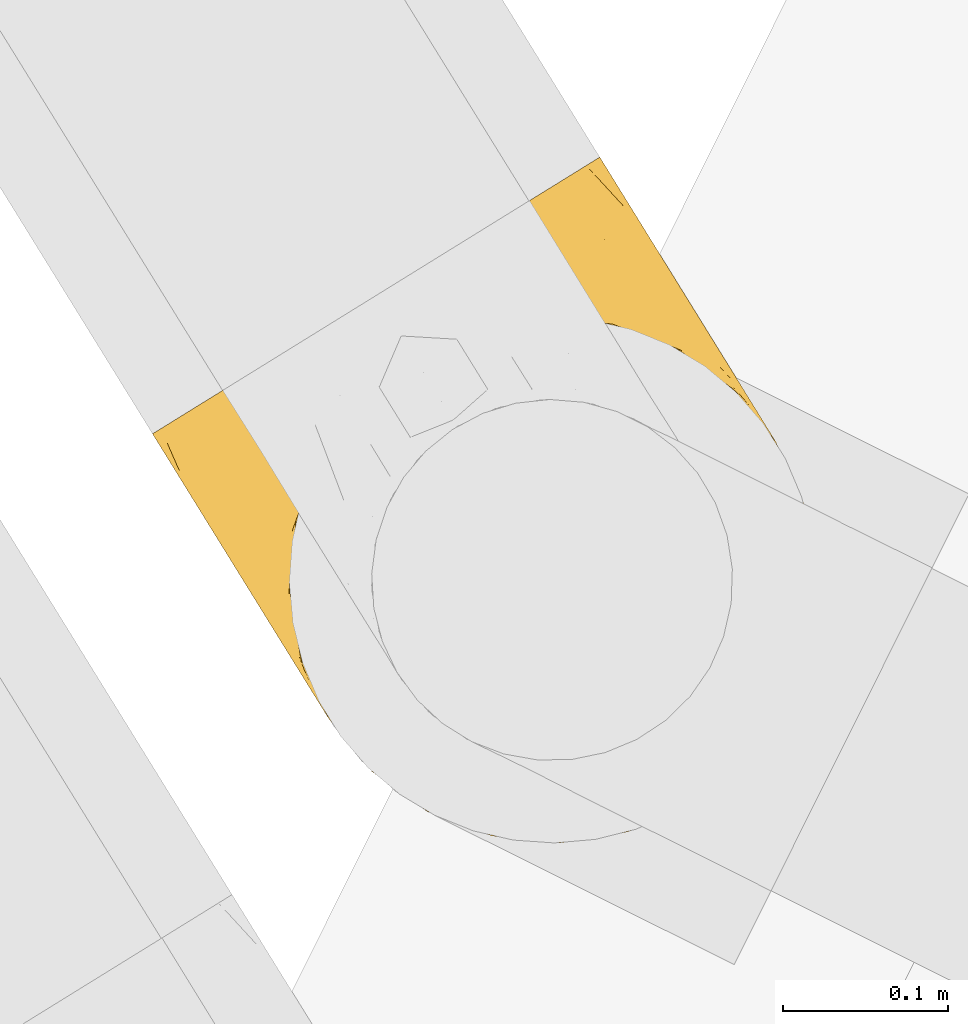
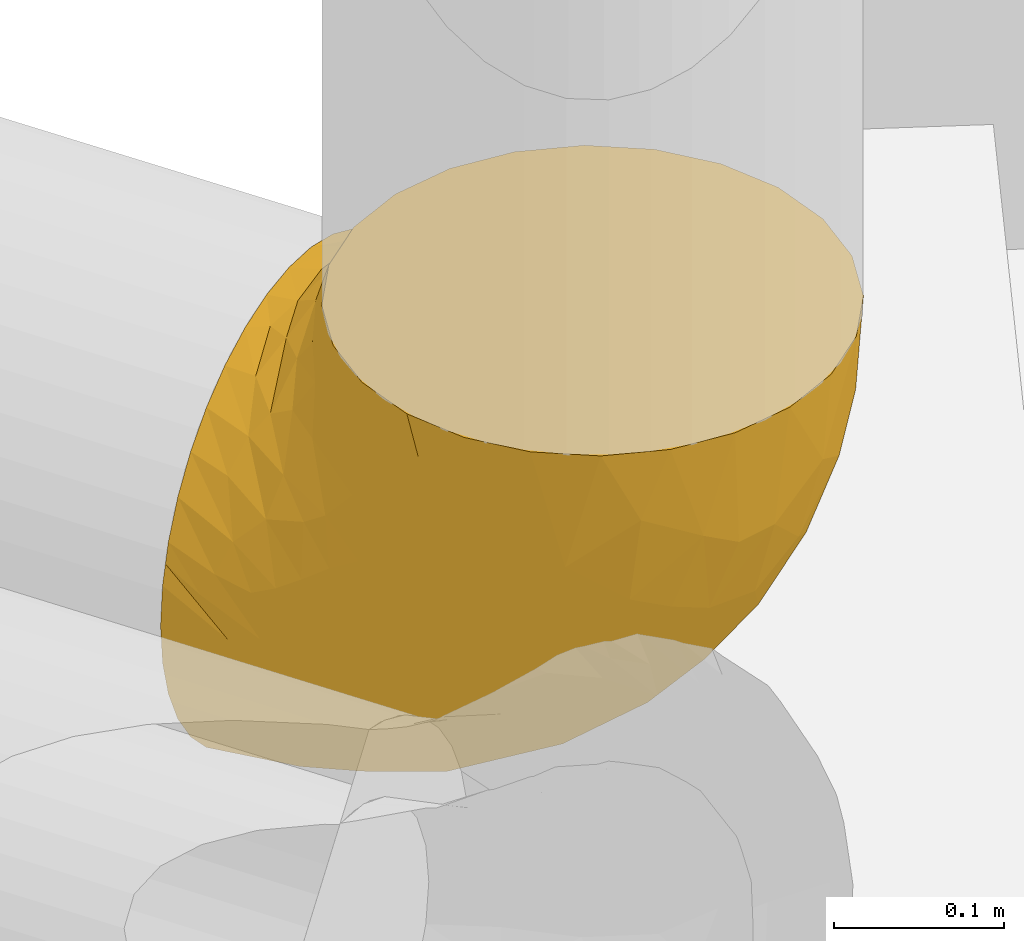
# One storey, part 41 of 91: 1 covering.
"""IFC2X3 building model written with IfcOpenShell, lengths in metres."""

import ifcopenshell
import ifcopenshell.guid

model = None  # the IFC model being written
_history = None  # IfcOwnerHistory: only IFC2X3 demands one
_inside = {}  # id of a spatial element -> (the spatial element, [elements in it])
_under = {}  # id of a project, library or spatial element -> (it, [spatial elements below it])
_declared = {}  # id of a project -> (the project, [libraries it declares])
_typed = {}  # id of a type object -> (the type object, [elements of that type])
_made_of = {}  # id of a material, layer set ... -> (it, [elements and type objects made of it])


def new_model(schema):
    """Start an empty IFC model of exactly this schema.

    Asked for "IFC4X3", IfcOpenShell would pick the latest addendum, in which some entities
    have other attributes; the version numbers below select the first issue.
    IFC2X3 requires an IfcOwnerHistory on every rooted entity: one is made here for all.
    """
    global model, _history
    if schema == "IFC4X3":
        model = ifcopenshell.file(schema_version=(4, 3, 0, 0))
    else:
        model = ifcopenshell.file(schema=schema)
    _inside.clear()
    _under.clear()
    _declared.clear()
    _typed.clear()
    _made_of.clear()
    _history = None
    if model.schema == "IFC2X3":
        org = make("IfcOrganization", Name="unknown")
        user = make(
            "IfcPersonAndOrganization",
            ThePerson=make("IfcPerson", FamilyName="unknown"),
            TheOrganization=org,
        )
        app = make(
            "IfcApplication",
            ApplicationDeveloper=org,
            Version="unknown",
            ApplicationFullName="unknown",
            ApplicationIdentifier="unknown",
        )
        _history = make(
            "IfcOwnerHistory",
            OwningUser=user,
            OwningApplication=app,
            ChangeAction="ADDED",
            CreationDate=0,
        )
    return model


def make(cls, **values):
    """One entity of the class cls with the attributes given. An attribute that is None is left unset."""
    return model.create_entity(
        cls, **{name: value for name, value in values.items() if value is not None}
    )


def entity(cls, *values):
    """Any entity or typed value of the class cls, its attributes in the order of the schema. None: left unset."""
    e = model.create_entity(cls)
    for i, value in enumerate(values):
        if value is not None:
            e[i] = value
    return e


def rooted(cls, **values):
    """An entity with a GlobalId (a new one), such as an element, a storey or a relation."""
    return make(cls, GlobalId=ifcopenshell.guid.new(), OwnerHistory=_history, **values)


def si_unit(unit_type, name, prefix=None):
    """IfcSIUnit, for example si_unit("LENGTHUNIT", "METRE", prefix="MILLI")."""
    return make("IfcSIUnit", UnitType=unit_type, Prefix=prefix, Name=name)


def converted_unit(unit_type, name, factor, base, dimensions=None, offset=None):
    """IfcConversionBasedUnit, such as the inch: factor (a typed value) times the base unit."""
    return make(
        "IfcConversionBasedUnit"
        if offset is None
        else "IfcConversionBasedUnitWithOffset",
        ConversionOffset=offset,
        Dimensions=None
        if dimensions is None
        else entity("IfcDimensionalExponents", *dimensions),
        UnitType=unit_type,
        Name=name,
        ConversionFactor=make(
            "IfcMeasureWithUnit", ValueComponent=factor, UnitComponent=base
        ),
    )


def derived_unit(unit_type, elements):
    """IfcDerivedUnit: a product of units, each with its exponent."""
    return make(
        "IfcDerivedUnit",
        Elements=[
            make("IfcDerivedUnitElement", Unit=unit, Exponent=power)
            for unit, power in elements
        ],
        UnitType=unit_type,
    )


def assignment(units):
    """IfcUnitAssignment: the units of a project."""
    return None if units is None else make("IfcUnitAssignment", Units=units)


def point(xyz):
    """IfcCartesianPoint."""
    return None if xyz is None else make("IfcCartesianPoint", Coordinates=xyz)


def direction(xyz):
    """IfcDirection."""
    return None if xyz is None else make("IfcDirection", DirectionRatios=xyz)


def frame(location, z_axis=None, x_axis=None):
    """IfcAxis2Placement3D, a coordinate frame: its origin and axes. An axis left out is left unset."""
    return make(
        "IfcAxis2Placement3D",
        Location=point(location),
        Axis=direction(z_axis),
        RefDirection=direction(x_axis),
    )


def origin():
    """The frame at (0, 0, 0) with its axes left unset."""
    return frame((0.0, 0.0, 0.0))


def place(relative_to, where):
    """IfcLocalPlacement: puts the frame where relative to a parent placement (None: the world)."""
    return make(
        "IfcLocalPlacement", PlacementRelTo=relative_to, RelativePlacement=where
    )


def context(
    kind, dimensions, precision=None, world=None, true_north=None, identifier=None
):
    """IfcGeometricRepresentationContext, for example the 3D "Model" context."""
    return make(
        "IfcGeometricRepresentationContext",
        ContextIdentifier=identifier,
        ContextType=kind,
        CoordinateSpaceDimension=dimensions,
        Precision=precision,
        WorldCoordinateSystem=world,
        TrueNorth=true_north,
    )


def subcontext(parent, identifier, kind, view, scale=None):
    """IfcGeometricRepresentationSubContext, for example "Body" below "Model"."""
    return make(
        "IfcGeometricRepresentationSubContext",
        ContextIdentifier=identifier,
        ContextType=kind,
        ParentContext=parent,
        TargetScale=scale,
        TargetView=view,
    )


def project(units=None, contexts=None):
    """IfcProject with its units and contexts."""
    return rooted(
        "IfcProject",
        Name="project",
        RepresentationContexts=contexts,
        UnitsInContext=assignment(units),
    )


def spatial(cls, under=None, at=None, **own):
    """A site, building, storey or space (cls), placed at a placement, below another one or the project."""
    s = rooted(cls, ObjectPlacement=at, **own)
    if under is not None:
        _under.setdefault(under.id(), (under, []))[1].append(s)
    return s


def faces_of(points, faces, orient=None, outer=None):
    """IfcFace entities. A face is a list of loops; a loop is a list of indices into points, from 0.

    orient and outer hold one flag for each loop. By default every Orientation is true, the
    first loop of a face is its IfcFaceOuterBound and the others are IfcFaceBound.
    """
    made = []
    for i, loops in enumerate(faces):
        bounds = []
        for j, loop in enumerate(loops):
            is_outer = j == 0 if outer is None else outer[i][j]
            bounds.append(
                make(
                    "IfcFaceOuterBound" if is_outer else "IfcFaceBound",
                    Bound=make("IfcPolyLoop", Polygon=[points[k] for k in loop]),
                    Orientation=True if orient is None else orient[i][j],
                )
            )
        made.append(make("IfcFace", Bounds=bounds))
    return made


def faceted_brep(points, faces, orient=None, outer=None, voids=None):
    """IfcFacetedBrep: a solid bounded by flat faces; with voids (closed shells), ...WithVoids."""
    shared = [point(p) for p in points]
    hull = make("IfcClosedShell", CfsFaces=faces_of(shared, faces, orient, outer))
    if voids is None:
        return make("IfcFacetedBrep", Outer=hull)
    return make(
        "IfcFacetedBrepWithVoids",
        Outer=hull,
        Voids=[
            make(cls, CfsFaces=faces_of(shared, fs, o, b)) for cls, fs, o, b in voids
        ],
    )


def shape(context_of_items, identifier, shape_type, items):
    """IfcShapeRepresentation: the items that make up one representation, for example the "Body"."""
    return make(
        "IfcShapeRepresentation",
        ContextOfItems=context_of_items,
        RepresentationIdentifier=identifier,
        RepresentationType=shape_type,
        Items=items,
    )


def made_of(thing, what):
    """Note that an element or type object is made of a material, layer set ...; save() writes the relation."""
    if what is not None:
        _made_of.setdefault(what.id(), (what, []))[1].append(thing)
    return thing


def element(
    cls,
    number,
    at=None,
    inside=None,
    cuts=None,
    type_object=None,
    material=None,
    context=None,
    identifier="Body",
    shape_type=None,
    held_by="IfcProductDefinitionShape",
    body=None,
    shapes=None,
    **own,
):
    """One element of the class cls, such as IfcWall. Its Tag is "e" and its number.

    at: its placement. inside: the storey or other place that contains it. cuts: it is an
    opening in that element (IfcRelVoidsElement). A single representation is given by context,
    identifier, shape_type and body (its items); several are given by shapes. held_by: the class
    of the entity that holds the representations. save() writes the other relations.
    """
    e = rooted(cls, Tag="e%d" % number, ObjectPlacement=at, **own)
    if body is not None:
        shapes = [shape(context, identifier, shape_type, body)]
    if shapes is not None:
        e.Representation = make(held_by, Representations=shapes)
    if inside is not None:
        _inside.setdefault(inside.id(), (inside, []))[1].append(e)
    if cuts is not None:
        rooted(
            "IfcRelVoidsElement", RelatingBuildingElement=cuts, RelatedOpeningElement=e
        )
    if type_object is not None:
        _typed.setdefault(type_object.id(), (type_object, []))[1].append(e)
    return made_of(e, material)


def aggregate(whole, parts):
    """IfcRelAggregates: a whole, such as a stair, and the parts it consists of."""
    return rooted("IfcRelAggregates", RelatingObject=whole, RelatedObjects=parts)


def save(model, path):
    """Write the relations noted so far, then the file.

    IfcRelAggregates (storeys below a building ...), IfcRelContainedInSpatialStructure (elements
    in a storey), IfcRelDefinesByType, IfcRelAssociatesMaterial and IfcRelDeclares: one each for
    every whole, place, type object, material and project.
    """
    for whole, parts in _under.values():
        aggregate(whole, parts)
    for where, things in _inside.values():
        rooted(
            "IfcRelContainedInSpatialStructure",
            RelatedElements=things,
            RelatingStructure=where,
        )
    for kind, things in _typed.values():
        rooted("IfcRelDefinesByType", RelatedObjects=things, RelatingType=kind)
    for what, things in _made_of.values():
        rooted("IfcRelAssociatesMaterial", RelatedObjects=things, RelatingMaterial=what)
    for by, libraries in _declared.values():
        rooted("IfcRelDeclares", RelatingContext=by, RelatedDefinitions=libraries)
    model.write(path)


model = new_model("IFC2X3")

# Units and contexts
model_context = context("Model", 3, precision=1e-05, world=origin(), true_north=direction((0.894925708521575, 0.446215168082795)))
context_of_model = context(None, 3, precision=1e-05, world=origin(), true_north=direction((0.894925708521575, 0.446215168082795)))
body_context = subcontext(model_context, "Body", "Model", "MODEL_VIEW")
ifc_project = project(units=[si_unit("LENGTHUNIT", "METRE"), si_unit("AREAUNIT", "SQUARE_METRE"), si_unit("VOLUMEUNIT", "CUBIC_METRE"), converted_unit("PLANEANGLEUNIT", "DEGREE", entity("IfcRatioMeasure", 0.0174532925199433), si_unit("PLANEANGLEUNIT", "RADIAN"), dimensions=[0, 0, 0, 0, 0, 0, 0]), si_unit("MASSUNIT", "GRAM", prefix="KILO"), si_unit("TIMEUNIT", "SECOND"), si_unit("FREQUENCYUNIT", "HERTZ"), si_unit("THERMODYNAMICTEMPERATUREUNIT", "DEGREE_CELSIUS"), derived_unit("THERMALTRANSMITTANCEUNIT", [(si_unit("MASSUNIT", "GRAM", prefix="KILO"), 1), (si_unit("THERMODYNAMICTEMPERATUREUNIT", "KELVIN"), -1), (si_unit("TIMEUNIT", "SECOND"), -3)]), derived_unit("VOLUMETRICFLOWRATEUNIT", [(si_unit("LENGTHUNIT", "METRE"), 3), (si_unit("TIMEUNIT", "SECOND"), -1)]), si_unit("ELECTRICCURRENTUNIT", "AMPERE"), si_unit("ELECTRICVOLTAGEUNIT", "VOLT"), si_unit("POWERUNIT", "WATT"), si_unit("FORCEUNIT", "NEWTON", prefix="KILO"), si_unit("ILLUMINANCEUNIT", "LUX"), si_unit("LUMINOUSFLUXUNIT", "LUMEN"), si_unit("LUMINOUSINTENSITYUNIT", "CANDELA"), si_unit("PRESSUREUNIT", "PASCAL")], contexts=[model_context, context_of_model])

# Site, building, storey
site_placement = place(None, frame((218.228324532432, 584.720189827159, 0.0), z_axis=(0.0, 0.0, 1.0), x_axis=(0.446215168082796, 0.894925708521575, 0.0)))
site = spatial("IfcSite", under=ifc_project, at=site_placement, Name="Default", CompositionType="ELEMENT")
building_placement = place(site_placement, origin())
building = spatial("IfcBuilding", under=site, at=building_placement, CompositionType="ELEMENT")
storey_placement = place(building_placement, origin())
storey = spatial("IfcBuildingStorey", under=building, at=storey_placement, Name="0 - Piano Terra", CompositionType="ELEMENT", Elevation=0.0)

# Covering
covering_placement = place(storey_placement, frame((-30.3032905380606, 5.97785126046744, 0.338854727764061)))
element("IfcCovering", 1, at=covering_placement, inside=storey, Name="Isolamento tubazione:Default", ObjectType="Isolamento tubazione:Default", PredefinedType="INSULATION", context=body_context, shape_type="Brep", body=[
    faceted_brep([(0.395398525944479, 0.254758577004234, 0.106575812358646), (0.385403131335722, 0.260946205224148, 0.0813666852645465), (0.37184003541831, 0.269342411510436, 0.0585864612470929), (0.35512185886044, 0.279691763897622, 0.0389242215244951), (0.335749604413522, 0.291684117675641, 0.0229706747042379), (0.314314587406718, 0.304953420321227, 0.0112156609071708), (0.291473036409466, 0.319093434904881, 0.00401834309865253), (0.267920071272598, 0.333673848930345, 0.00159527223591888), (0.244365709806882, 0.348255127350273, 0.00401863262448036), (0.221521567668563, 0.362396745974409, 0.0112173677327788), (0.20008712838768, 0.375665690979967, 0.0229729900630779), (0.180717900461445, 0.38765617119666, 0.0389245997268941), (0.163999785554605, 0.3980054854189, 0.0585869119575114), (0.150435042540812, 0.406402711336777, 0.0813706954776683), (0.140440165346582, 0.412590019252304, 0.106580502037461), (0.134320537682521, 0.416378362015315, 0.133444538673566), (0.132260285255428, 0.417653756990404, 0.16114527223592), (0.133065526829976, 0.417155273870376, 0.171971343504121), (0.13432078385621, 0.416378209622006, 0.188847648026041), (0.137381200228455, 0.414483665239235, 0.202281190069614), (0.140441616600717, 0.412589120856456, 0.215714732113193), (0.150437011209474, 0.406401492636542, 0.240923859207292), (0.164000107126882, 0.398005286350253, 0.263704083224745), (0.180718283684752, 0.387655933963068, 0.283366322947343), (0.200090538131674, 0.375663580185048, 0.2993198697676), (0.221525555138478, 0.362394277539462, 0.311074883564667), (0.244367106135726, 0.348254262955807, 0.318272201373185), (0.267920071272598, 0.333673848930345, 0.320695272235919), (0.291474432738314, 0.319092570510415, 0.318271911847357), (0.314318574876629, 0.30495095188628, 0.311073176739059), (0.335753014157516, 0.291682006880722, 0.29931755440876), (0.355122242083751, 0.27969152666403, 0.283365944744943), (0.371840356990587, 0.269342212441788, 0.263703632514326), (0.38540510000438, 0.260944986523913, 0.240919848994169), (0.395399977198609, 0.254757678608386, 0.215710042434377), (0.401519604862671, 0.250969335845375, 0.188846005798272), (0.402774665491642, 0.250192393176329, 0.17197132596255), (0.403579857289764, 0.249693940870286, 0.161145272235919), (0.401519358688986, 0.250969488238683, 0.133442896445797), (0.12452685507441, 0.316378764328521, 0.364145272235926), (0.105051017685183, 0.30900371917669, 0.364145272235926), (0.0855751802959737, 0.301628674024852, 0.364145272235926), (0.0686717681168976, 0.289464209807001, 0.364145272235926), (0.0517683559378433, 0.277299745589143, 0.364145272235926), (0.03940244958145, 0.262169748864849, 0.364145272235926), (0.0324063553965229, 0.253609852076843, 0.364145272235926), (0.0254102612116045, 0.245049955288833, 0.364145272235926), (0.0082971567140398, 0.207077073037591, 0.364145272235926), (0.0015952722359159, 0.165968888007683, 0.364145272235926), (0.00576133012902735, 0.124526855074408, 0.364145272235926), (0.0205114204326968, 0.0855751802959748, 0.364145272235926), (0.0448403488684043, 0.0517683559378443, 0.364145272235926), (0.0770901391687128, 0.0254102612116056, 0.364145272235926), (0.115063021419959, 0.00829715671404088, 0.364145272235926), (0.156171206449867, 0.0015952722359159, 0.364145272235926), (0.197613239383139, 0.00576133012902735, 0.364145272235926), (0.236564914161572, 0.0205114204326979, 0.364145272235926), (0.270371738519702, 0.0448403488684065, 0.364145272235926), (0.296729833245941, 0.0770901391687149, 0.364145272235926), (0.301272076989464, 0.0871690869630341, 0.364145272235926), (0.305814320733, 0.0972480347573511, 0.364145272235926), (0.313842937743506, 0.115063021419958, 0.364145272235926), (0.317193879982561, 0.135617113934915, 0.364145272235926), (0.320544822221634, 0.156171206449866, 0.364145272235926), (0.318461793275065, 0.176892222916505, 0.364145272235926), (0.316378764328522, 0.197613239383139, 0.364145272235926), (0.301628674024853, 0.236564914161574, 0.364145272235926), (0.277299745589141, 0.270371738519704, 0.364145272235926), (0.245049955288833, 0.296729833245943, 0.364145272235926), (0.207077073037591, 0.313842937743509, 0.364145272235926), (0.165968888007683, 0.320544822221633, 0.364145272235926), (0.145247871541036, 0.31846179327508, 0.364145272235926), (0.119667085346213, 0.0181429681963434, 0.275645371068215), (0.0799892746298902, 0.0300934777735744, 0.301189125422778), (0.0885985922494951, 0.0440008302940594, 0.240145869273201), (0.282469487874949, 0.0810856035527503, 0.192702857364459), (0.312629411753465, 0.109460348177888, 0.197037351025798), (0.274916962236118, 0.0578786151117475, 0.257674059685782), (0.320041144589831, 0.114746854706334, 0.237576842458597), (0.313676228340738, 0.104465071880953, 0.256821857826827), (0.307311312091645, 0.0941832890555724, 0.276066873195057), (0.158392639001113, 0.0280431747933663, 0.223051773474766), (0.128484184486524, 0.0370541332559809, 0.215164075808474), (0.143626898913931, 0.0644998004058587, 0.159526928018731), (0.263513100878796, 0.12869687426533, 0.0926591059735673), (0.252721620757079, 0.0849492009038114, 0.144663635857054), (0.218796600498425, 0.082258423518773, 0.130966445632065), (0.144083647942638, 0.00691847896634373, 0.305777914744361), (0.213456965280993, 0.0131251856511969, 0.31421969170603), (0.314415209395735, 0.127255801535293, 0.149883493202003), (0.102656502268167, 0.0667097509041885, 0.182870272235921), (0.121735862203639, 0.0975302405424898, 0.131102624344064), (0.157371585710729, 0.102605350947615, 0.109488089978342), (0.145256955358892, 0.135525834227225, 0.0864158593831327), (0.379803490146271, 0.211285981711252, 0.166234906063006), (0.351537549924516, 0.17231192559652, 0.146967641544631), (0.214060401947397, 0.0253899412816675, 0.25014029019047), (0.249074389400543, 0.0464782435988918, 0.229011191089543), (0.249588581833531, 0.03208852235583, 0.301075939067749), (0.277161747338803, 0.231661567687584, 0.0236515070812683), (0.2214002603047, 0.187186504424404, 0.0385683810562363), (0.245891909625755, 0.241989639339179, 0.0156740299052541), (0.299408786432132, 0.0814176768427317, 0.318973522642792), (0.298055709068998, 0.0792319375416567, 0.341788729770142), (0.297392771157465, 0.0781610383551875, 0.352967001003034), (0.173672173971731, 0.00844345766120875, 0.292024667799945), (0.202652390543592, 0.228241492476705, 0.0234597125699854), (0.172505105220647, 0.179542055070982, 0.050167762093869), (0.303360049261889, 0.0878004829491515, 0.297520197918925), (0.352214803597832, 0.204094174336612, 0.0922467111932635), (0.186776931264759, 0.091611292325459, 0.115617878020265), (0.196209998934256, 0.135683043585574, 0.073154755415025), (0.222589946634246, 0.123344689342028, 0.0846018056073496), (0.313666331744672, 0.177298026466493, 0.0773627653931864), (0.324842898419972, 0.222027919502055, 0.0495812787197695), (0.291811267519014, 0.128393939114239, 0.114293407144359), (0.256727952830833, 0.166165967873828, 0.0561833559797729), (0.234782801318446, 0.280144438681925, 0.00710322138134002), (0.397696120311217, 0.240189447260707, 0.162404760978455), (0.391812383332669, 0.230684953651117, 0.163664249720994), (0.357219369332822, 0.174803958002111, 0.181248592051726), (0.347089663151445, 0.158440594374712, 0.193341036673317), (0.336959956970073, 0.142077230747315, 0.205433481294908), (0.368511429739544, 0.193044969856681, 0.173741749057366), (0.328500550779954, 0.128412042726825, 0.221505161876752), (0.181684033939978, 0.0549779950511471, 0.166460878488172), (0.217488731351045, 0.0500366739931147, 0.185436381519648), (0.189333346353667, 0.0283771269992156, 0.223925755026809), (0.282208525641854, 0.294777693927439, 0.324911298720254), (0.311229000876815, 0.105941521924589, 0.337277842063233), (0.375512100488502, 0.239131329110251, 0.237558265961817), (0.316172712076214, 0.119133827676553, 0.328080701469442), (0.350547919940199, 0.221637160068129, 0.267743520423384), (0.34654922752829, 0.257269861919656, 0.282779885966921), (0.339485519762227, 0.237478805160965, 0.287013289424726), (0.329022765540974, 0.138958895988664, 0.270555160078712), (0.337842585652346, 0.15770757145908, 0.258245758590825), (0.334325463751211, 0.172117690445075, 0.28524547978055), (0.375650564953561, 0.215767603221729, 0.210134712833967), (0.306301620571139, 0.240760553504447, 0.334476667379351), (0.316136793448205, 0.208809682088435, 0.339736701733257), (0.321573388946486, 0.214579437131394, 0.319015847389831), (0.360145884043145, 0.224610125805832, 0.253348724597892), (0.351885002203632, 0.185569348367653, 0.242127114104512), (0.361136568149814, 0.190490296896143, 0.217507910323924), (0.326859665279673, 0.234583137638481, 0.303705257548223), (0.343452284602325, 0.20660766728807, 0.275276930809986), (0.326801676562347, 0.267175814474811, 0.301106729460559), (0.327243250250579, 0.186440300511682, 0.311576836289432), (0.281495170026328, 0.27538069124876, 0.339341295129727), (0.303578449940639, 0.27058212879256, 0.31951244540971), (0.342938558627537, 0.157679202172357, 0.232624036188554), (0.350024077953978, 0.167258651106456, 0.217038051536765), (0.303151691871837, 0.291899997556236, 0.314843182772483), (0.38328333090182, 0.223206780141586, 0.196765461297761), (0.332989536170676, 0.201151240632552, 0.295924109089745), (0.321236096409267, 0.171582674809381, 0.34496298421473), (0.256485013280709, 0.31520184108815, 0.326516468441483), (0.248113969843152, 0.301679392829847, 0.342420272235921), (0.323187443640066, 0.175956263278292, 0.329719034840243), (0.318232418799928, 0.11736118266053, 0.29329998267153), (0.324883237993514, 0.135042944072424, 0.289482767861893), (0.329100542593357, 0.158786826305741, 0.297029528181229), (0.323220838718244, 0.143411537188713, 0.315309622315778), (0.344726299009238, 0.176638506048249, 0.255196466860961), (0.321127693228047, 0.14802413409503, 0.339551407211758), (0.154164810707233, 0.364569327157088, 0.280281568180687), (0.121422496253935, 0.34582059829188, 0.274410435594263), (0.114440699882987, 0.356641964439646, 0.247884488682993), (0.229508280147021, 0.330698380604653, 0.323578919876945), (0.211238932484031, 0.321193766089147, 0.336527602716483), (0.138698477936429, 0.321047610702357, 0.34377903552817), (0.111083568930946, 0.31472856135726, 0.338896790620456), (0.0882094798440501, 0.323166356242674, 0.267508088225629), (0.065700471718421, 0.305010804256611, 0.249727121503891), (0.0779537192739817, 0.307945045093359, 0.288664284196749), (0.0869877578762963, 0.337345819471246, 0.223062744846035), (0.0972482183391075, 0.335444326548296, 0.257122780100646), (0.0757700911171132, 0.326400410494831, 0.193341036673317), (0.0956209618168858, 0.352055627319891, 0.211214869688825), (0.0280892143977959, 0.249377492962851, 0.318973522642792), (0.0267361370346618, 0.24719175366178, 0.341788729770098), (0.0260731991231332, 0.246120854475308, 0.352967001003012), (0.140122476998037, 0.32605006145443, 0.327025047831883), (0.114582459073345, 0.320307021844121, 0.320742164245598), (0.0447694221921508, 0.270892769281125, 0.337277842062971), (0.217191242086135, 0.347755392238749, 0.314621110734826), (0.1854852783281, 0.358264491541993, 0.301284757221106), (0.199728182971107, 0.339348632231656, 0.318085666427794), (0.0735567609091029, 0.298575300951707, 0.316513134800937), (0.0783817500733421, 0.298684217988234, 0.340160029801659), (0.156281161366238, 0.351483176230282, 0.294403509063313), (0.0320404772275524, 0.25576029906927, 0.297520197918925), (0.118489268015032, 0.329009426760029, 0.302061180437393), (0.0543732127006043, 0.281200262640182, 0.328080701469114), (0.126376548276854, 0.408149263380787, 0.162404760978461), (0.120492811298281, 0.398644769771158, 0.163664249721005), (0.108483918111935, 0.379245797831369, 0.166234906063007), (0.143861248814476, 0.377368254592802, 0.259460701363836), (0.0772864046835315, 0.321654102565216, 0.237066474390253), (0.0571809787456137, 0.296371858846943, 0.221505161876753), (0.120478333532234, 0.375731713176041, 0.228265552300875), (0.168523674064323, 0.325942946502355, 0.336132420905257), (0.0858997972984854, 0.342763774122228, 0.181248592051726), (0.0971918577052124, 0.361004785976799, 0.173741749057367), (0.121042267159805, 0.394941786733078, 0.190630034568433), (0.119418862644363, 0.386474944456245, 0.206112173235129), (0.0598773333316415, 0.295509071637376, 0.264351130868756), (0.035991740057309, 0.26214310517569, 0.276066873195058), (0.174208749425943, 0.334630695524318, 0.320790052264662), (0.145243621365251, 0.339098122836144, 0.304186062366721), (0.103937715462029, 0.366031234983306, 0.202773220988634), (0.0521669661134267, 0.283203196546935, 0.288174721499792), (0.0656403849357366, 0.310037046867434, 0.205433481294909), (0.0487215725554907, 0.282706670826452, 0.237576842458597), (0.0423566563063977, 0.272424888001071, 0.256821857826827), (0.047294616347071, 0.273715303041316, 0.197037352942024), (0.110388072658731, 0.131690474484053, 0.109488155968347), (0.122676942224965, 0.181203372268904, 0.0731551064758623), (0.00912054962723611, 0.186460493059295, 0.279870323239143), (0.0159967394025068, 0.148000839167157, 0.250140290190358), (0.00528784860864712, 0.141991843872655, 0.314219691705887), (0.0209401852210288, 0.231142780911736, 0.270957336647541), (0.142604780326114, 0.334840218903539, 0.0495818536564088), (0.114345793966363, 0.351344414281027, 0.092251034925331), (0.083521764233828, 0.323709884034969, 0.13430515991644), (0.0801300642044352, 0.202383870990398, 0.104351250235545), (0.0520680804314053, 0.209163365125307, 0.144663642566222), (0.078365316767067, 0.252871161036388, 0.104304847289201), (0.0874353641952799, 0.153108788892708, 0.115618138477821), (0.0485554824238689, 0.149840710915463, 0.168429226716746), (0.0824093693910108, 0.102396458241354, 0.159526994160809), (0.0341296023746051, 0.0824389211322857, 0.276041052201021), (0.0188374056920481, 0.104293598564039, 0.292024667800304), (0.0707019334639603, 0.0707670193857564, 0.214728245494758), (0.0639345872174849, 0.125613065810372, 0.161374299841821), (0.0431939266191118, 0.099356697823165, 0.223051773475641), (0.0516002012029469, 0.0602796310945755, 0.275645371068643), (0.0387787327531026, 0.221129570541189, 0.175378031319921), (0.11175572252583, 0.369267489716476, 0.116541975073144), (0.0268533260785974, 0.122434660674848, 0.236336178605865), (0.122976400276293, 0.248966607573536, 0.056183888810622), (0.17248723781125, 0.296462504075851, 0.0236528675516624), (0.157543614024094, 0.226717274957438, 0.0385687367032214), (0.0291481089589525, 0.22949102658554, 0.213108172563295), (0.0292810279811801, 0.178896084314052, 0.197487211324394), (0.107551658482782, 0.304894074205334, 0.0773644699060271), (0.19567736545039, 0.273079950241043, 0.0156734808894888), (0.0544128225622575, 0.26462381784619, 0.156378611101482), (0.0816062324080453, 0.293145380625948, 0.112245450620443)], [[[0, 1, 2, 3, 4, 5, 6, 7, 8, 9, 10, 11, 12, 13, 14, 15, 16, 17, 18, 19, 20, 21, 22, 23, 24, 25, 26, 27, 28, 29, 30, 31, 32, 33, 34, 35, 36, 37, 38]], [[39, 40, 41, 42, 43, 44, 45, 46, 47, 48, 49, 50, 51, 52, 53, 54, 55, 56, 57, 58, 59, 60, 61, 62, 63, 64, 65, 66, 67, 68, 69, 70, 71]], [[72, 73, 74]], [[73, 53, 52]], [[75, 76, 77]], [[76, 78, 79, 80]], [[81, 82, 83]], [[84, 85, 86]], [[87, 53, 72]], [[88, 56, 55]], [[89, 76, 75]], [[83, 82, 90]], [[91, 83, 90]], [[92, 91, 93]], [[38, 94, 95]], [[96, 97, 98]], [[99, 100, 101]], [[57, 102, 103, 104, 58]], [[55, 54, 105]], [[106, 100, 107]], [[98, 57, 56]], [[77, 80, 108, 102]], [[1, 0, 109]], [[102, 57, 77]], [[110, 111, 112]], [[89, 95, 76]], [[76, 80, 77]], [[91, 92, 83]], [[109, 113, 114]], [[115, 109, 89]], [[111, 107, 100]], [[109, 38, 95]], [[4, 99, 5]], [[105, 96, 88]], [[6, 5, 101]], [[99, 4, 114]], [[99, 114, 116]], [[99, 101, 5]], [[82, 81, 72]], [[3, 114, 4]], [[113, 116, 114]], [[117, 7, 6]], [[117, 101, 106]], [[114, 2, 1]], [[38, 37, 118, 119, 94]], [[95, 120, 121, 122]], [[110, 112, 86]], [[85, 84, 115]], [[85, 75, 97]], [[95, 94, 123, 120]], [[116, 112, 111]], [[76, 95, 122]], [[53, 73, 72]], [[76, 122, 124, 78]], [[99, 116, 100]], [[2, 114, 3]], [[1, 109, 114]], [[81, 105, 87]], [[125, 83, 110]], [[92, 111, 110]], [[38, 109, 0]], [[125, 126, 127]], [[89, 109, 95]], [[97, 75, 77]], [[115, 75, 85]], [[98, 97, 77]], [[97, 96, 126]], [[93, 107, 111]], [[83, 92, 110]], [[111, 92, 93]], [[116, 111, 100]], [[57, 98, 77]], [[98, 56, 88]], [[87, 105, 54]], [[105, 81, 127]], [[84, 112, 116]], [[112, 84, 86]], [[116, 113, 84]], [[115, 84, 113]], [[126, 86, 85]], [[125, 110, 86]], [[97, 126, 85]], [[127, 126, 96]], [[126, 125, 86]], [[83, 125, 81]], [[109, 115, 113]], [[75, 115, 89]], [[105, 127, 96]], [[125, 127, 81]], [[106, 101, 100]], [[6, 101, 117]], [[105, 88, 55]], [[98, 88, 96]], [[72, 74, 82]], [[90, 82, 74]], [[53, 87, 54]], [[81, 87, 72]], [[104, 103, 102, 61, 60, 59, 58]], [[28, 27, 128]], [[61, 129, 62]], [[130, 33, 32]], [[63, 62, 131]], [[102, 129, 61]], [[132, 133, 134]], [[135, 136, 137]], [[130, 138, 33]], [[139, 140, 141]], [[142, 143, 144]], [[134, 145, 146]], [[147, 30, 29]], [[141, 140, 148]], [[149, 68, 67]], [[67, 66, 139]], [[142, 31, 133]], [[134, 133, 147]], [[150, 128, 149]], [[136, 124, 151]], [[151, 122, 152]], [[147, 153, 150]], [[142, 32, 31]], [[29, 153, 147]], [[94, 34, 154]], [[138, 123, 154]], [[119, 118, 37, 36, 35, 94]], [[149, 67, 139]], [[145, 155, 146]], [[94, 35, 34]], [[156, 65, 64]], [[138, 130, 144]], [[157, 128, 27]], [[150, 153, 128]], [[154, 33, 138]], [[138, 120, 123]], [[149, 128, 158]], [[30, 133, 31]], [[30, 147, 133]], [[29, 28, 153]], [[145, 147, 150]], [[159, 148, 140]], [[144, 120, 138]], [[160, 131, 80]], [[161, 135, 162]], [[108, 131, 129]], [[80, 131, 108]], [[159, 156, 163]], [[150, 139, 145]], [[155, 141, 148]], [[142, 132, 143]], [[152, 144, 143]], [[108, 129, 102]], [[131, 62, 129]], [[28, 128, 153]], [[158, 128, 157]], [[149, 158, 68]], [[139, 150, 149]], [[164, 136, 151]], [[144, 152, 121]], [[164, 155, 137]], [[135, 78, 136]], [[145, 134, 147]], [[132, 134, 146]], [[143, 132, 146]], [[133, 132, 142]], [[32, 142, 130]], [[144, 130, 142]], [[141, 145, 139]], [[137, 155, 148]], [[137, 162, 135]], [[137, 136, 164]], [[162, 137, 148]], [[159, 162, 148]], [[160, 79, 161]], [[79, 78, 135]], [[161, 162, 163]], [[160, 161, 163]], [[79, 135, 161]], [[160, 163, 165]], [[79, 160, 80]], [[145, 141, 155]], [[140, 139, 66]], [[66, 65, 140]], [[159, 163, 162]], [[140, 65, 159]], [[63, 165, 64]], [[156, 159, 65]], [[63, 131, 165]], [[160, 165, 131]], [[64, 165, 156]], [[163, 156, 165]], [[121, 152, 122]], [[121, 120, 144]], [[151, 152, 143]], [[164, 151, 143]], [[143, 146, 164]], [[124, 136, 78]], [[124, 122, 151]], [[164, 146, 155]], [[94, 154, 123]], [[33, 154, 34]], [[23, 166, 24]], [[167, 166, 168]], [[158, 169, 170]], [[71, 171, 172]], [[158, 157, 169]], [[173, 174, 175]], [[168, 176, 177]], [[170, 68, 158]], [[178, 176, 179]], [[71, 70, 171]], [[45, 44, 43, 180, 181, 182, 46]], [[171, 183, 184]], [[43, 42, 185]], [[186, 187, 188]], [[172, 39, 71]], [[189, 190, 172]], [[191, 188, 187]], [[185, 192, 180]], [[191, 187, 166]], [[184, 183, 193]], [[26, 25, 186]], [[194, 42, 41]], [[17, 16, 195, 196, 197, 18]], [[187, 25, 24]], [[166, 187, 24]], [[23, 198, 166]], [[199, 200, 174]], [[22, 21, 201]], [[22, 198, 23]], [[186, 169, 26]], [[70, 69, 202]], [[203, 178, 179]], [[201, 168, 198]], [[204, 205, 197]], [[204, 206, 205]], [[175, 184, 193]], [[205, 19, 197]], [[174, 207, 175]], [[194, 208, 192]], [[68, 170, 69]], [[183, 209, 210]], [[166, 198, 168]], [[169, 27, 26]], [[167, 210, 191]], [[201, 198, 22]], [[203, 179, 211]], [[20, 206, 21]], [[185, 180, 43]], [[172, 190, 40]], [[194, 189, 212]], [[187, 186, 25]], [[169, 186, 188]], [[169, 188, 170]], [[169, 157, 27]], [[209, 170, 188]], [[69, 170, 202]], [[42, 194, 185]], [[192, 185, 194]], [[211, 204, 203]], [[201, 21, 206]], [[177, 176, 199]], [[193, 167, 173]], [[199, 176, 213]], [[213, 176, 178]], [[179, 168, 201]], [[200, 214, 174]], [[177, 199, 173]], [[199, 213, 200]], [[168, 179, 176]], [[179, 201, 211]], [[201, 206, 211]], [[204, 211, 206]], [[212, 175, 207]], [[199, 174, 173]], [[207, 174, 214]], [[172, 175, 189]], [[214, 215, 207]], [[208, 212, 215]], [[207, 215, 212]], [[194, 212, 208]], [[212, 189, 175]], [[167, 191, 166]], [[191, 210, 209]], [[19, 205, 20]], [[19, 18, 197]], [[206, 20, 205]], [[184, 172, 171]], [[70, 202, 171]], [[183, 171, 202]], [[175, 172, 184]], [[190, 41, 40]], [[190, 194, 41]], [[39, 172, 40]], [[194, 190, 189]], [[209, 183, 202]], [[193, 183, 210]], [[167, 193, 210]], [[175, 193, 173]], [[170, 209, 202]], [[191, 209, 188]], [[173, 167, 177]], [[168, 177, 167]], [[216, 208, 215, 214]], [[93, 217, 218]], [[219, 220, 221]], [[222, 46, 182, 181, 180]], [[222, 208, 216]], [[223, 224, 13]], [[203, 225, 216]], [[226, 227, 228]], [[13, 224, 14]], [[216, 214, 200, 213]], [[229, 230, 226]], [[217, 231, 229]], [[232, 50, 233]], [[90, 74, 234]], [[73, 52, 51]], [[223, 11, 10]], [[49, 48, 221]], [[235, 236, 230]], [[49, 233, 50]], [[74, 73, 237]], [[227, 238, 228]], [[236, 231, 234]], [[15, 14, 239]], [[234, 74, 237]], [[233, 240, 236]], [[231, 91, 90]], [[225, 203, 204, 197]], [[241, 242, 243]], [[222, 180, 192, 208]], [[107, 93, 218]], [[239, 197, 15]], [[15, 197, 196, 195, 16]], [[232, 51, 50]], [[244, 222, 216]], [[47, 222, 219]], [[245, 230, 240]], [[246, 224, 223]], [[243, 106, 107]], [[48, 47, 219]], [[13, 12, 223]], [[73, 51, 237]], [[10, 242, 223]], [[11, 223, 12]], [[247, 243, 242]], [[10, 9, 242]], [[243, 218, 241]], [[106, 243, 247]], [[91, 217, 93]], [[247, 8, 117]], [[46, 222, 47]], [[7, 117, 8]], [[248, 216, 225]], [[219, 222, 244]], [[242, 241, 223]], [[228, 248, 249]], [[244, 245, 219]], [[9, 8, 247]], [[244, 216, 248]], [[245, 244, 238]], [[216, 213, 178, 203]], [[241, 246, 223]], [[249, 224, 246]], [[239, 224, 225]], [[249, 225, 224]], [[238, 244, 248]], [[231, 217, 91]], [[218, 217, 229]], [[218, 229, 226]], [[107, 218, 243]], [[249, 246, 228]], [[248, 225, 249]], [[233, 49, 221]], [[232, 233, 236]], [[224, 239, 14]], [[197, 239, 225]], [[246, 241, 228]], [[231, 235, 229]], [[228, 241, 226]], [[218, 226, 241]], [[230, 236, 240]], [[227, 226, 230]], [[228, 238, 248]], [[245, 238, 227]], [[230, 245, 227]], [[219, 245, 220]], [[247, 242, 9]], [[106, 247, 117]], [[219, 221, 48]], [[233, 221, 220]], [[236, 234, 237]], [[90, 234, 231]], [[233, 220, 240]], [[240, 220, 245]], [[236, 237, 232]], [[232, 237, 51]], [[236, 235, 231]], [[230, 229, 235]]]),
])

save(model, "model.ifc")
